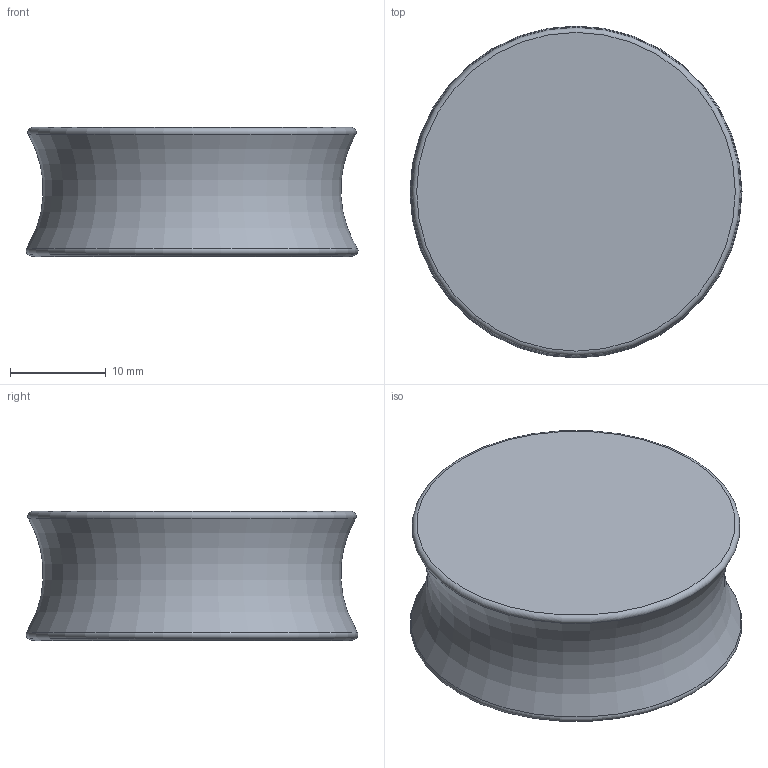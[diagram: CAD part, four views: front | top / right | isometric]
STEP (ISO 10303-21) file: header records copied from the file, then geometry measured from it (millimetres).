
FILE_DESCRIPTION(/* description */ ('STEP AP242','CAx-IF Rec.Pracs.---Representation and Presentation of Product Manufacturing Information (PMI)---4.0---2014-10-13','CAx-IF Rec.Pracs.---3D Tessellated Geometry---0.4---2014-09-14','2;1'),/* implementation_level */ '2;1');
FILE_NAME(/* name */ '66925bc1fec4cf37d633176f',/* time_stamp */ '2024-07-13T10:49:39Z',/* author */ (''),/* organization */ (''),/* preprocessor_version */ 'ST-DEVELOPER v20',/* originating_system */ ' ',/* authorisation */ ' ');
FILE_SCHEMA (('AP242_MANAGED_MODEL_BASED_3D_ENGINEERING_MIM_LF { 1 0 10303 442 1 1 4 }'));
Length unit declared in the file: metre
Products named in the file (1): Part 1
Bounding box: 34.59 x 34.58 x 13.45 mm (x, y, z)
Volume: 1951.4 mm3; surface area: 4238.7 mm2
Topology: 1 solids, 1 shells, 172 faces, 465 edges, 309 vertices
Faces by surface type: bspline 87, plane 79, torus 5, cone 1
Entity records: 5614 total; most frequent: CARTESIAN_POINT 1894, ORIENTED_EDGE 914, DIRECTION 462, EDGE_CURVE 457, VERTEX_POINT 307, LINE 276, VECTOR 276, EDGE_LOOP 192
